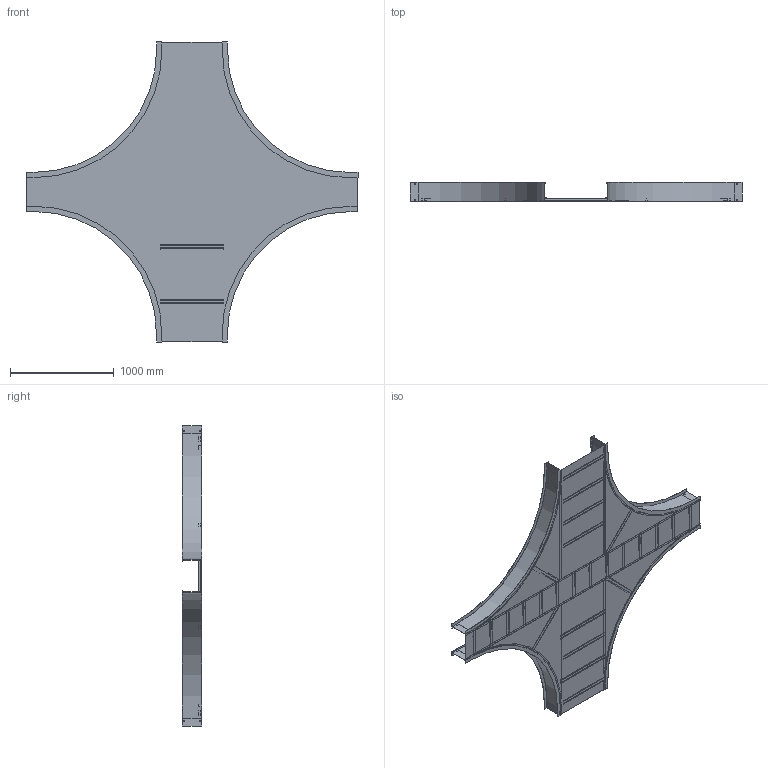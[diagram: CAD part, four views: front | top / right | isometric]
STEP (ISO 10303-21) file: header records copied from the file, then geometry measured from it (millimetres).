
FILE_DESCRIPTION((''),'2;1');
FILE_NAME('AHF71224SEX48_ASM','2010-02-01T',('erouzier'),(''),'PRO/ENGINEER BY PARAMETRIC TECHNOLOGY CORPORATION, 2008510','PRO/ENGINEER BY PARAMETRIC TECHNOLOGY CORPORATION, 2008510','');
FILE_SCHEMA(('CONFIG_CONTROL_DESIGN'));
Length unit declared in the file: inch
Products named in the file (28): CDS001813-7-90-48-I; CDS002159L12_AF21; CDS002159L12_AF22; CDS002159L12_AF23; CDS002159L12_AF24; CDS002159L12_AF30; CDS002159L12_AF32; CDS002159L12_AF34; CDS002159L12_AF25; CDS002159L12_AF26; CDS002159L12_AF27; CDS002159L12_AF29; CDS002159L12_AF31; CDS002159L12_AF33; CDS002159L12_AF28; CDS000495_GEN_AF18; CDS000495_GEN_AF19; CDS000495_GEN_AF22; CDS000495_GEN_AF23; CDS000495_GEN_AF20; CDS000495_GEN_AF21; CDS002159L24_AF6; CDS002159L24_AF7; CDS002159L24_AF4; CDS002159L24_AF5; CDS002159L24; CDS014308-12-48-24; AHF71224SEX48_ASM
Assembly tree (37 placements, depth 2):
  AHF71224SEX48_ASM
    CDS001813-7-90-48-I  x4
    CDS002159L12_AF21
    CDS002159L12_AF22
    CDS002159L12_AF23
    CDS002159L12_AF24
    CDS002159L12_AF30
    CDS002159L12_AF32
    CDS002159L12_AF34
    CDS002159L12_AF25
    CDS002159L12_AF26
    CDS002159L12_AF27
    CDS002159L12_AF29
    CDS002159L12_AF31
    CDS002159L12_AF33
    CDS002159L12_AF28
    CDS000495_GEN_AF18
    CDS000495_GEN_AF19
    CDS000495_GEN_AF22
    CDS000495_GEN_AF23
    CDS000495_GEN_AF20
    CDS000495_GEN_AF21
    CDS002159L24_AF6
    CDS002159L24_AF7
    CDS002159L24_AF4
    CDS002159L24_AF5
    CDS002159L24  x8
    CDS014308-12-48-24
Bounding box: 3205.99 x 183.9 x 2901.19 mm (x, y, z)
Volume: 13204877.9 mm3; surface area: 16349941.6 mm2
Topology: 37 solids, 37 shells, 1026 faces, 2856 edges, 1904 vertices
Faces by surface type: plane 712, cylinder 314
Entity records: 22902 total; most frequent: CARTESIAN_POINT 4247, ORIENTED_EDGE 3816, DIRECTION 3768, EDGE_CURVE 1908, VECTOR 1470, LINE 1470, VERTEX_POINT 1272, AXIS2_PLACEMENT_3D 1149
